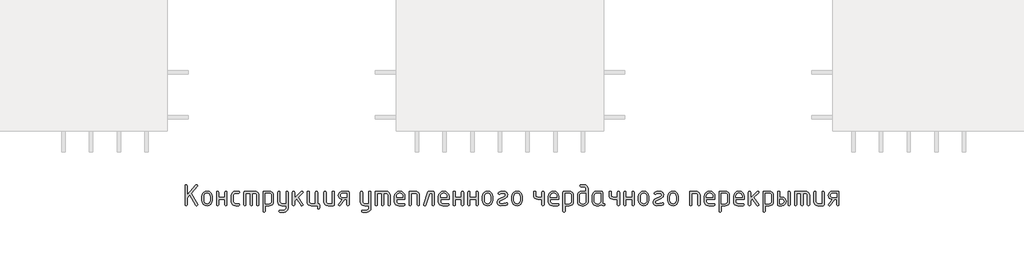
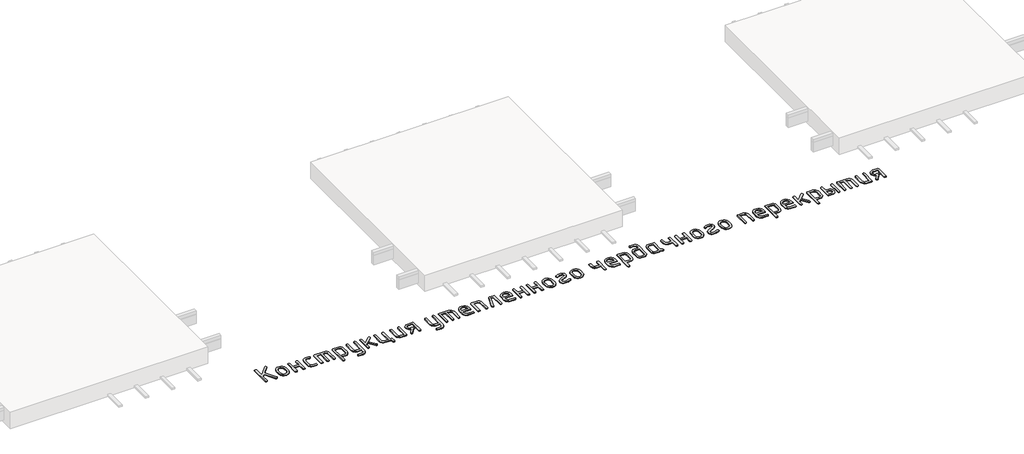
# One storey, part 38 of 42: 1 proxy.
"""IFC4 building model written with IfcOpenShell, lengths in millimetres."""

from ifc_helpers import new_model, si_unit, origin, origin_with_axes, place, context, project, spatial, polyline, outline, extrude, element, save

model = new_model("IFC4")

# Units and contexts
model_context = context("Model", 3, world=origin())
ifc_project = project(units=[si_unit("LENGTHUNIT", "METRE", prefix="MILLI")], contexts=[model_context])

# Site, building, storey
site = spatial("IfcSite", under=ifc_project)
building = spatial("IfcBuilding", under=site)
storey = spatial("IfcBuildingStorey", under=building, Name="Этаж 01", Elevation=0.0)

# Proxy
placement = place(None, origin())
element("IfcBuildingElementProxy", 1, Name="300 мм GOST Common", ObjectType="300 мм GOST Common", at=placement, inside=storey, context=model_context, shape_type="SweptSolid", body=[
    extrude(outline(polyline([(37438.5303163, -44847.9830755), (37399.3090295, -44891.4008785), (37399.3090295, -44992.0365671), (37395.4353221, -45003.4761091), (37383.8142001, -45007.2892897), (37372.1930781, -45003.4761091), (37368.3193708, -44992.0365671), (37368.3193708, -44717.8103685), (37372.1930781, -44706.3708265), (37383.8142001, -44702.5576458), (37395.4353221, -44706.3708265), (37399.3090295, -44717.8103685), (37399.3090295, -44845.8848173), (37524.1553889, -44707.6418867), (37535.6958086, -44702.5576458), (37547.0142973, -44706.3708265), (37550.7871268, -44717.8103685), (37546.6713128, -44728.220957), (37460.1585156, -44824.0145113), (37548.7695709, -44984.4505569), (37550.7871268, -44992.0365671), (37546.1063971, -45002.5682089), (37535.6958086, -45007.2892897), (37527.7062873, -45005.2717338), (37522.137833, -44999.2190661), (37438.5303163, -44847.9830755)])), origin_with_axes(), (0.0, 0.0, 1.0), 10.0),
    extrude(outline(polyline([(37611.0716973, -44931.6712944), (37611.0716973, -44871.1446173), (37616.5493615, -44842.0716367), (37632.9823544, -44817.6390347), (37657.1829375, -44801.0547251), (37685.9633724, -44795.5266219), (37715.0464408, -44800.9941984), (37739.1864972, -44817.396928), (37755.43791, -44841.7690033), (37760.8550476, -44871.1446173), (37760.8550476, -44931.6712944), (37755.3773833, -44960.744275), (37738.9443905, -44985.176877), (37714.7438074, -45001.7611865), (37685.9633724, -45007.2892897), (37657.1829375, -45001.7611865), (37632.9823544, -44985.176877), (37616.5493615, -44960.744275), (37611.0716973, -44931.6712944)]), holes=[polyline([(37729.8653889, -44930.7835698), (37729.8653889, -44870.1761904), (37726.6473873, -44852.7445074), (37716.9933823, -44838.0567004), (37702.7998765, -44828.0697987), (37685.9633724, -44824.7408314), (37669.1268684, -44828.0697987), (37654.9333626, -44838.0567004), (37645.2793576, -44852.7445074), (37642.061356, -44870.1761904), (37642.061356, -44930.7835698), (37645.2490943, -44948.3766573), (37654.8123093, -44963.0644643), (37668.9755517, -44972.9908393), (37685.9633724, -44976.299631), (37702.7998765, -44972.9706638), (37716.9933823, -44962.983762), (37726.6473873, -44948.2757795), (37729.8653889, -44930.7835698)])]), origin_with_axes(), (0.0, 0.0, 1.0), 10.0),
    extrude(outline(polyline([(37853.8240237, -44914.3203136), (37853.8240237, -44991.7944604), (37849.9503164, -45003.4155824), (37838.3291944, -45007.2892897), (37826.7080724, -45003.5164602), (37822.834365, -44992.1979716), (37822.834365, -44810.6179401), (37826.7080724, -44799.2994515), (37838.3291944, -44795.5266219), (37849.9503164, -44799.1783981), (37853.8240237, -44810.1337267), (37853.8240237, -44883.3306549), (37941.6280567, -44883.3306549), (37941.6280567, -44810.1337267), (37945.501764, -44799.1783981), (37957.1228861, -44795.5266219), (37968.7440081, -44799.2994515), (37972.6177154, -44810.6179401), (37972.6177154, -44992.1979716), (37968.7440081, -45003.5164602), (37957.1228861, -45007.2892897), (37945.501764, -45003.4155824), (37941.6280567, -44991.7944604), (37941.6280567, -44914.3203136), (37853.8240237, -44914.3203136)])), origin_with_axes(), (0.0, 0.0, 1.0), 10.0),
    extrude(outline(polyline([(38065.5866915, -44856.4568103), (38065.5866915, -44946.3591014), (38067.8261786, -44957.76838), (38074.5446397, -44967.4627362), (38084.3499614, -44974.0904073), (38095.8500301, -44976.299631), (38141.3660913, -44976.299631), (38152.6845799, -44980.1733384), (38156.4574095, -44991.7944604), (38152.6845799, -45003.4155824), (38141.3660913, -45007.2892897), (38095.8500301, -45007.2892897), (38072.3051527, -45002.9111934), (38052.5129292, -44989.7769045), (38039.0760069, -44970.2671389), (38034.5970328, -44946.7626126), (38034.5970328, -44856.0532991), (38039.0760069, -44832.5487728), (38052.5129292, -44813.0390072), (38072.3051527, -44799.9047183), (38095.8500301, -44795.5266219), (38141.3660913, -44795.5266219), (38152.6845799, -44799.4003293), (38156.4574095, -44811.0214513), (38152.6845799, -44822.6425733), (38141.3660913, -44826.5162806), (38095.8500301, -44826.5162806), (38084.1986447, -44828.7053288), (38074.4235864, -44835.2724733), (38067.7959152, -44844.9466538), (38065.5866915, -44856.4568103)])), origin_with_axes(), (0.0, 0.0, 1.0), 10.0),
    extrude(outline(polyline([(38230.8648712, -44795.5266219), (38370.3183354, -44795.5266219), (38394.2061973, -44799.9349816), (38414.2203519, -44813.1600606), (38427.7783275, -44832.7000895), (38432.2976528, -44856.0532991), (38432.2976528, -44992.1979716), (38428.4239454, -45003.5164602), (38416.8028234, -45007.2892897), (38405.1817014, -45003.5164602), (38401.3079941, -44992.1979716), (38401.3079941, -44856.6182147), (38399.0785948, -44844.8861272), (38392.390397, -44835.191771), (38382.413583, -44828.6851532), (38370.3183354, -44826.5162806), (38339.3286767, -44826.5162806), (38339.3286767, -44992.1979716), (38335.4549693, -45003.5164602), (38323.8338473, -45007.2892897), (38312.2127253, -45003.5164602), (38308.339018, -44992.1979716), (38308.339018, -44826.5162806), (38246.3597006, -44826.5162806), (38246.3597006, -44992.1979716), (38242.4859932, -45003.5164602), (38230.8648712, -45007.2892897), (38219.2437492, -45003.5164602), (38215.3700419, -44992.1979716), (38215.3700419, -44810.6179401), (38219.2437492, -44799.2994515), (38230.8648712, -44795.5266219)])), origin_with_axes(), (0.0, 0.0, 1.0), 10.0),
    extrude(outline(polyline([(38494.2769702, -44810.7793446), (38498.0296242, -44799.3398026), (38509.2875861, -44795.5266219), (38584.1792613, -44795.5266219), (38607.4013298, -44799.9047183), (38626.7093398, -44813.0390072), (38639.7225754, -44832.5487728), (38644.0603206, -44856.0532991), (38644.0603206, -44946.7626126), (38639.7528387, -44970.1158222), (38626.8303931, -44989.6558511), (38607.6736998, -45002.8809301), (38584.6634747, -45007.2892897), (38525.2666289, -45007.2892897), (38525.2666289, -45084.7634365), (38521.3929215, -45096.3845585), (38509.7717995, -45100.2582658), (38498.1506775, -45096.4450852), (38494.2769702, -45085.0055432), (38494.2769702, -44810.7793446)]), holes=[polyline([(38525.2666289, -44826.5162806), (38525.2666289, -44976.299631), (38583.7757501, -44976.299631), (38595.0538876, -44974.1105829), (38604.5162248, -44967.5434384), (38610.9320526, -44957.8692578), (38613.0706619, -44946.3591014), (38613.0706619, -44856.4568103), (38610.9623159, -44844.7953371), (38604.6372782, -44835.1514199), (38595.2052043, -44828.6750655), (38583.7757501, -44826.5162806), (38525.2666289, -44826.5162806)])]), origin_with_axes(), (0.0, 0.0, 1.0), 10.0),
    extrude(outline(polyline([(38824.8333296, -45038.7631618), (38824.8333296, -45007.2892897), (38765.4364838, -45007.2892897), (38742.4262587, -45002.8809301), (38723.2695654, -44989.6558511), (38710.3471198, -44970.1158222), (38706.039638, -44946.7626126), (38706.039638, -44810.6179401), (38709.9133453, -44799.2994515), (38721.5344673, -44795.5266219), (38733.1555893, -44799.2994515), (38737.0292966, -44810.6179401), (38737.0292966, -44946.1976969), (38739.1880815, -44957.6271511), (38745.6644359, -44967.3820339), (38755.1469487, -44974.0702317), (38766.3242084, -44976.299631), (38824.8333296, -44976.299631), (38824.8333296, -44810.6179401), (38828.707037, -44799.2994515), (38840.328159, -44795.5266219), (38851.949281, -44799.3398026), (38855.8229883, -44810.7793446), (38855.8229883, -45039.3280775), (38851.5760331, -45062.7821649), (38838.8351676, -45082.4634227), (38819.9004054, -45095.809555), (38797.0717604, -45100.2582658), (38737.0292966, -45100.2582658), (38725.6502813, -45096.3845585), (38721.8572762, -45084.7634365), (38726.4573037, -45073.9493368), (38737.0292966, -45069.2686071), (38795.5384179, -45069.2686071), (38806.9678721, -45067.0997345), (38816.3999459, -45060.5931167), (38822.7249837, -45050.7978828), (38824.8333296, -45038.7631618)])), origin_with_axes(), (0.0, 0.0, 1.0), 10.0),
    extrude(outline(polyline([(38948.7919644, -44894.9517769), (39044.0206031, -44799.8845427), (39054.8347028, -44795.5266219), (39066.2137181, -44799.2994515), (39070.0067232, -44810.6179401), (39065.4066957, -44821.1899331), (38998.8273509, -44887.6885757), (39067.0207405, -44983.48213), (39070.0067232, -44992.359376), (39066.2137181, -45003.5568113), (39054.8347028, -45007.2892897), (39047.6925549, -45005.675245), (39042.2451539, -45000.8331108), (38977.0377471, -44909.2360727), (38948.7919644, -44937.4818554), (38948.7919644, -44992.1172693), (38944.9182571, -45003.4962846), (38933.2971351, -45007.2892897), (38921.6760131, -45003.5164602), (38917.8023057, -44992.1979716), (38917.8023057, -44810.6179401), (38921.6760131, -44799.2994515), (38933.2971351, -44795.5266219), (38944.9182571, -44799.2994515), (38948.7919644, -44810.6179401), (38948.7919644, -44894.9517769)])), origin_with_axes(), (0.0, 0.0, 1.0), 10.0),
    extrude(outline(polyline([(39294.8431532, -44976.299631), (39306.4642752, -44980.1733384), (39310.3379826, -44991.7944604), (39310.3379826, -45038.2789484), (39306.4642752, -45049.9000704), (39294.8431532, -45053.7737778), (39283.2220312, -45049.9000704), (39279.3483239, -45038.2789484), (39279.3483239, -45007.2892897), (39189.4460328, -45007.2892897), (39166.2239643, -45002.8809301), (39146.9159543, -44989.6558511), (39133.9027187, -44970.1158222), (39129.5649735, -44946.7626126), (39129.5649735, -44810.6179401), (39133.4386808, -44799.2994515), (39145.0598029, -44795.5266219), (39156.6809249, -44799.2994515), (39160.5546322, -44810.6179401), (39160.5546322, -44946.1976969), (39162.713417, -44957.6271511), (39169.1897715, -44967.3820339), (39178.6722842, -44974.0702317), (39189.8495439, -44976.299631), (39248.3586652, -44976.299631), (39248.3586652, -44810.6179401), (39252.2323725, -44799.2994515), (39263.8534945, -44795.5266219), (39275.4746165, -44799.2994515), (39279.3483239, -44810.6179401), (39279.3483239, -44976.299631), (39294.8431532, -44976.299631)])), origin_with_axes(), (0.0, 0.0, 1.0), 10.0),
    extrude(outline(polyline([(39522.1006504, -44810.6179401), (39522.1006504, -44992.1979716), (39518.3479964, -45003.5164602), (39507.0900344, -45007.2892897), (39432.1983592, -45007.2892897), (39408.9762908, -45002.9111934), (39389.6682808, -44989.7769045), (39376.6550452, -44970.2671389), (39372.3173, -44946.7626126), (39372.3173, -44810.6179401), (39376.1910073, -44799.2994515), (39387.8121293, -44795.5266219), (39399.4332513, -44799.2994515), (39403.3069587, -44810.6179401), (39403.3069587, -44946.1976969), (39405.4657435, -44957.6271511), (39411.942098, -44967.3820339), (39421.4246107, -44974.0702317), (39432.6018704, -44976.299631), (39491.1109917, -44976.299631), (39491.1109917, -44810.6179401), (39494.984699, -44799.2994515), (39506.605821, -44795.5266219), (39518.226943, -44799.2994515), (39522.1006504, -44810.6179401)])), origin_with_axes(), (0.0, 0.0, 1.0), 10.0),
    extrude(outline(polyline([(39635.6486967, -44916.0957628), (39614.2726919, -44909.7909006), (39596.9519744, -44896.3640661), (39585.4821691, -44877.792464), (39581.6589007, -44856.0532991), (39586.0571725, -44832.5487728), (39599.2519882, -44813.0390072), (39618.8021049, -44799.9047183), (39642.2662801, -44795.5266219), (39718.3684888, -44795.5266219), (39729.9896108, -44799.2994515), (39733.8633181, -44810.6179401), (39733.8633181, -44992.1979716), (39729.9896108, -45003.5164602), (39718.3684888, -45007.2892897), (39706.7473668, -45003.4962846), (39702.8736594, -44992.1172693), (39702.8736594, -44916.4185718), (39672.1261074, -44916.4185718), (39609.0169587, -45001.0752175), (39603.6704356, -45005.7357717), (39596.8309211, -45007.2892897), (39585.4519058, -45003.5164602), (39581.6589007, -44992.1979716), (39584.6448834, -44982.9979166), (39635.6486967, -44916.0957628)]), holes=[polyline([(39612.0029415, -44856.8603215), (39614.2424285, -44868.3603901), (39620.9608897, -44878.1657118), (39630.7662114, -44884.884173), (39642.2662801, -44887.12366), (39702.8736594, -44887.12366), (39702.8736594, -44826.5162806), (39642.2662801, -44826.5162806), (39630.6148947, -44828.7255044), (39620.8398363, -44835.3531755), (39614.2121652, -44845.1484094), (39612.0029415, -44856.8603215)])]), origin_with_axes(), (0.0, 0.0, 1.0), 10.0),
    extrude(outline(polyline([(40017.9351895, -45038.7631618), (40017.9351895, -45007.2892897), (39958.5383437, -45007.2892897), (39935.5281186, -45002.8809301), (39916.3714253, -44989.6558511), (39903.4489797, -44970.1158222), (39899.1414979, -44946.7626126), (39899.1414979, -44810.6179401), (39903.0152052, -44799.2994515), (39914.6363272, -44795.5266219), (39926.2574492, -44799.2994515), (39930.1311566, -44810.6179401), (39930.1311566, -44946.1976969), (39932.2899414, -44957.6271511), (39938.7662958, -44967.3820339), (39948.2488086, -44974.0702317), (39959.4260683, -44976.299631), (40017.9351895, -44976.299631), (40017.9351895, -44810.6179401), (40021.8088969, -44799.2994515), (40033.4300189, -44795.5266219), (40045.0511409, -44799.3398026), (40048.9248482, -44810.7793446), (40048.9248482, -45039.3280775), (40044.6778931, -45062.7821649), (40031.9370275, -45082.4634227), (40013.0022654, -45095.809555), (39990.1736203, -45100.2582658), (39930.1311566, -45100.2582658), (39918.7521413, -45096.3845585), (39914.9591362, -45084.7634365), (39919.5591636, -45073.9493368), (39930.1311566, -45069.2686071), (39988.6402778, -45069.2686071), (40000.069732, -45067.0997345), (40009.5018059, -45060.5931167), (40015.8268436, -45050.7978828), (40017.9351895, -45038.7631618)])), origin_with_axes(), (0.0, 0.0, 1.0), 10.0),
    extrude(outline(polyline([(40126.398995, -44795.5266219), (40265.8524591, -44795.5266219), (40289.740321, -44799.9349816), (40309.7544756, -44813.1600606), (40323.3124513, -44832.7000895), (40327.8317765, -44856.0532991), (40327.8317765, -44992.1979716), (40323.9580692, -45003.5164602), (40312.3369472, -45007.2892897), (40300.7158252, -45003.5164602), (40296.8421178, -44992.1979716), (40296.8421178, -44856.6182147), (40294.6127186, -44844.8861272), (40287.9245207, -44835.191771), (40277.9477068, -44828.6851532), (40265.8524591, -44826.5162806), (40234.8628004, -44826.5162806), (40234.8628004, -44992.1979716), (40230.9890931, -45003.5164602), (40219.3679711, -45007.2892897), (40207.7468491, -45003.5164602), (40203.8731417, -44992.1979716), (40203.8731417, -44826.5162806), (40141.8938243, -44826.5162806), (40141.8938243, -44992.1979716), (40138.020117, -45003.5164602), (40126.398995, -45007.2892897), (40114.777873, -45003.5164602), (40110.9041656, -44992.1979716), (40110.9041656, -44810.6179401), (40114.777873, -44799.2994515), (40126.398995, -44795.5266219)])), origin_with_axes(), (0.0, 0.0, 1.0), 10.0),
    extrude(outline(polyline([(40420.8007526, -44914.3203136), (40420.8007526, -44945.3099723), (40423.0402397, -44957.1025866), (40429.7587008, -44967.1399272), (40439.5640225, -44974.0097051), (40451.0640912, -44976.299631), (40526.843491, -44976.299631), (40538.2225063, -44980.1733384), (40542.0155114, -44991.7944604), (40538.2225063, -45003.4155824), (40526.843491, -45007.2892897), (40451.0640912, -45007.2892897), (40427.5192138, -45002.9111934), (40407.7269904, -44989.7769045), (40394.290068, -44970.2671389), (40389.8110939, -44946.7626126), (40389.8110939, -44871.1446173), (40395.4299871, -44842.0716367), (40412.2866667, -44817.6390347), (40437.0118143, -44801.0547251), (40466.2361116, -44795.5266219), (40495.68234, -44800.8933207), (40520.1048543, -44816.9934168), (40536.5378471, -44840.9216298), (40542.0155114, -44869.7726792), (40542.0155114, -44914.3203136), (40420.8007526, -44914.3203136)]), holes=[polyline([(40466.2361116, -44822.7232755), (40448.8044286, -44826.0522428), (40434.1166216, -44836.0391445), (40424.1297199, -44850.7269515), (40420.8007526, -44868.1586345), (40420.8007526, -44883.3306549), (40511.6714706, -44883.3306549), (40511.6714706, -44868.1586345), (40508.3425033, -44850.7269515), (40498.3556016, -44836.0391445), (40483.6677946, -44826.0522428), (40466.2361116, -44822.7232755)])]), origin_with_axes(), (0.0, 0.0, 1.0), 10.0),
    extrude(outline(polyline([(40601.5737617, -44992.1979716), (40601.5737617, -44810.6179401), (40605.3264157, -44799.2994515), (40616.5843776, -44795.5266219), (40691.4760528, -44795.5266219), (40714.5468046, -44799.9349816), (40733.8850779, -44813.1600606), (40746.9891036, -44832.7000895), (40751.3571121, -44856.0532991), (40751.3571121, -44992.1979716), (40747.4834047, -45003.5164602), (40735.8622827, -45007.2892897), (40724.2411607, -45003.5164602), (40720.3674534, -44992.1979716), (40720.3674534, -44856.6182147), (40718.2591075, -44844.8861272), (40711.9340697, -44835.191771), (40702.5019958, -44828.6851532), (40691.0725416, -44826.5162806), (40632.5634204, -44826.5162806), (40632.5634204, -44992.1979716), (40628.6897131, -45003.5164602), (40617.0685911, -45007.2892897), (40605.447469, -45003.5164602), (40601.5737617, -44992.1979716)])), origin_with_axes(), (0.0, 0.0, 1.0), 10.0),
    extrude(outline(polyline([(40886.6947622, -44795.5266219), (40947.6249505, -44795.5266219), (40959.2460725, -44799.2994515), (40963.1197799, -44810.6179401), (40963.1197799, -44992.1979716), (40959.2460725, -45003.5164602), (40947.6249505, -45007.2892897), (40936.0038285, -45003.5164602), (40932.1301212, -44992.1979716), (40932.1301212, -44826.5162806), (40897.5088618, -44826.5162806), (40840.3716786, -44997.0401057), (40835.0655066, -45004.7269937), (40826.0873828, -45007.2892897), (40814.7083675, -45003.4559335), (40810.9153624, -44991.9558648), (40811.6416825, -44987.3558374), (40871.5227418, -44807.8740641), (40877.414005, -44798.6134825), (40886.6947622, -44795.5266219)])), origin_with_axes(), (0.0, 0.0, 1.0), 10.0),
    extrude(outline(polyline([(41056.088756, -44914.3203136), (41056.088756, -44945.3099723), (41058.328243, -44957.1025866), (41065.0467042, -44967.1399272), (41074.8520259, -44974.0097051), (41086.3520945, -44976.299631), (41162.1314943, -44976.299631), (41173.5105096, -44980.1733384), (41177.3035147, -44991.7944604), (41173.5105096, -45003.4155824), (41162.1314943, -45007.2892897), (41086.3520945, -45007.2892897), (41062.8072171, -45002.9111934), (41043.0149937, -44989.7769045), (41029.5780714, -44970.2671389), (41025.0990973, -44946.7626126), (41025.0990973, -44871.1446173), (41030.7179905, -44842.0716367), (41047.57467, -44817.6390347), (41072.2998177, -44801.0547251), (41101.5241149, -44795.5266219), (41130.9703434, -44800.8933207), (41155.3928576, -44816.9934168), (41171.8258504, -44840.9216298), (41177.3035147, -44869.7726792), (41177.3035147, -44914.3203136), (41056.088756, -44914.3203136)]), holes=[polyline([(41101.5241149, -44822.7232755), (41084.0924319, -44826.0522428), (41069.4046249, -44836.0391445), (41059.4177232, -44850.7269515), (41056.088756, -44868.1586345), (41056.088756, -44883.3306549), (41146.9594739, -44883.3306549), (41146.9594739, -44868.1586345), (41143.6305067, -44850.7269515), (41133.6436049, -44836.0391445), (41118.955798, -44826.0522428), (41101.5241149, -44822.7232755)])]), origin_with_axes(), (0.0, 0.0, 1.0), 10.0),
    extrude(outline(polyline([(41267.8514237, -44914.3203136), (41267.8514237, -44991.7944604), (41263.9777164, -45003.4155824), (41252.3565944, -45007.2892897), (41240.7354724, -45003.5164602), (41236.861765, -44992.1979716), (41236.861765, -44810.6179401), (41240.7354724, -44799.2994515), (41252.3565944, -44795.5266219), (41263.9777164, -44799.1783981), (41267.8514237, -44810.1337267), (41267.8514237, -44883.3306549), (41355.6554567, -44883.3306549), (41355.6554567, -44810.1337267), (41359.5291641, -44799.1783981), (41371.1502861, -44795.5266219), (41382.7714081, -44799.2994515), (41386.6451154, -44810.6179401), (41386.6451154, -44992.1979716), (41382.7714081, -45003.5164602), (41371.1502861, -45007.2892897), (41359.5291641, -45003.4155824), (41355.6554567, -44991.7944604), (41355.6554567, -44914.3203136), (41267.8514237, -44914.3203136)])), origin_with_axes(), (0.0, 0.0, 1.0), 10.0),
    extrude(outline(polyline([(41479.6140915, -44914.3203136), (41479.6140915, -44991.7944604), (41475.7403842, -45003.4155824), (41464.1192622, -45007.2892897), (41452.4981401, -45003.5164602), (41448.6244328, -44992.1979716), (41448.6244328, -44810.6179401), (41452.4981401, -44799.2994515), (41464.1192622, -44795.5266219), (41475.7403842, -44799.1783981), (41479.6140915, -44810.1337267), (41479.6140915, -44883.3306549), (41567.4181245, -44883.3306549), (41567.4181245, -44810.1337267), (41571.2918318, -44799.1783981), (41582.9129538, -44795.5266219), (41594.5340759, -44799.2994515), (41598.4077832, -44810.6179401), (41598.4077832, -44992.1979716), (41594.5340759, -45003.5164602), (41582.9129538, -45007.2892897), (41571.2918318, -45003.4155824), (41567.4181245, -44991.7944604), (41567.4181245, -44914.3203136), (41479.6140915, -44914.3203136)])), origin_with_axes(), (0.0, 0.0, 1.0), 10.0),
    extrude(outline(polyline([(41660.3871006, -44931.6712944), (41660.3871006, -44871.1446173), (41665.8647649, -44842.0716367), (41682.2977577, -44817.6390347), (41706.4983408, -44801.0547251), (41735.2787758, -44795.5266219), (41764.3618441, -44800.9941984), (41788.5019005, -44817.396928), (41804.7533134, -44841.7690033), (41810.170451, -44871.1446173), (41810.170451, -44931.6712944), (41804.6927867, -44960.744275), (41788.2597938, -44985.176877), (41764.0592108, -45001.7611865), (41735.2787758, -45007.2892897), (41706.4983408, -45001.7611865), (41682.2977577, -44985.176877), (41665.8647649, -44960.744275), (41660.3871006, -44931.6712944)]), holes=[polyline([(41779.1807923, -44930.7835698), (41779.1807923, -44870.1761904), (41775.9627906, -44852.7445074), (41766.3087856, -44838.0567004), (41752.1152798, -44828.0697987), (41735.2787758, -44824.7408314), (41718.4422718, -44828.0697987), (41704.248766, -44838.0567004), (41694.594761, -44852.7445074), (41691.3767593, -44870.1761904), (41691.3767593, -44930.7835698), (41694.5644976, -44948.3766573), (41704.1277126, -44963.0644643), (41718.2909551, -44972.9908393), (41735.2787758, -44976.299631), (41752.1152798, -44972.9706638), (41766.3087856, -44962.983762), (41775.9627906, -44948.2757795), (41779.1807923, -44930.7835698)])]), origin_with_axes(), (0.0, 0.0, 1.0), 10.0),
    extrude(outline(polyline([(42007.8102274, -44961.1276106), (42019.1892427, -44964.9206157), (42022.9822478, -44976.299631), (42020.8638141, -44984.2488013), (42014.508513, -44990.1804156), (41997.9292474, -44997.6655481), (41977.4056599, -45003.0120712), (41924.5255197, -45007.2892897), (41904.0675028, -45003.4357579), (41886.9182776, -44991.8751626), (41875.2971556, -44974.8469908), (41871.4234482, -44954.5907295), (41873.3199508, -44939.2018218), (41879.0094584, -44926.1230157), (41888.4919712, -44915.354311), (41901.767489, -44906.8957079), (41980.2907649, -44869.2077636), (41989.5513465, -44861.1980666), (41992.638207, -44849.1129068), (41990.9737234, -44840.4374164), (41985.9802725, -44833.133864), (41978.6464568, -44828.1706765), (41969.9608786, -44826.5162806), (41931.6273164, -44829.7443701), (41908.8692858, -44839.8321496), (41901.767489, -44841.688301), (41891.1954961, -44837.0882736), (41886.5954686, -44826.5162806), (41888.6130245, -44818.8697438), (41894.6656923, -44812.8776027), (41926.8053578, -44799.8643671), (41969.9608786, -44795.5266219), (41990.3583688, -44799.3801537), (42007.4874185, -44810.9407491), (42019.1085405, -44827.9689209), (42022.9822478, -44848.2251822), (42021.0706136, -44863.6140898), (42015.3357109, -44876.692896), (42005.7775398, -44887.4616006), (41992.3961003, -44895.9202038), (41914.5991446, -44933.1239347), (41904.9754029, -44941.3757383), (41901.767489, -44953.7030049), (41903.4319727, -44962.3784953), (41908.4254235, -44969.6820477), (41915.7794148, -44974.6452352), (41924.5255197, -44976.299631), (41966.0669957, -44972.7890837), (42002.0803686, -44962.2574419), (42007.8102274, -44961.1276106)])), origin_with_axes(), (0.0, 0.0, 1.0), 10.0),
    extrude(outline(polyline([(42083.9124361, -44931.6712944), (42083.9124361, -44871.1446173), (42089.3901004, -44842.0716367), (42105.8230933, -44817.6390347), (42130.0236763, -44801.0547251), (42158.8041113, -44795.5266219), (42187.8871797, -44800.9941984), (42212.0272361, -44817.396928), (42228.2786489, -44841.7690033), (42233.6957865, -44871.1446173), (42233.6957865, -44931.6712944), (42228.2181222, -44960.744275), (42211.7851294, -44985.176877), (42187.5845463, -45001.7611865), (42158.8041113, -45007.2892897), (42130.0236763, -45001.7611865), (42105.8230933, -44985.176877), (42089.3901004, -44960.744275), (42083.9124361, -44931.6712944)]), holes=[polyline([(42202.7061278, -44930.7835698), (42202.7061278, -44870.1761904), (42199.4881262, -44852.7445074), (42189.8341211, -44838.0567004), (42175.6406154, -44828.0697987), (42158.8041113, -44824.7408314), (42141.9676073, -44828.0697987), (42127.7741015, -44838.0567004), (42118.1200965, -44852.7445074), (42114.9020948, -44870.1761904), (42114.9020948, -44930.7835698), (42118.0898332, -44948.3766573), (42127.6530482, -44963.0644643), (42141.8162906, -44972.9908393), (42158.8041113, -44976.299631), (42175.6406154, -44972.9706638), (42189.8341211, -44962.983762), (42199.4881262, -44948.2757795), (42202.7061278, -44930.7835698)])]), origin_with_axes(), (0.0, 0.0, 1.0), 10.0),
    extrude(outline(polyline([(42548.7573166, -44810.6179401), (42548.7573166, -44992.1979716), (42544.8836093, -45003.5164602), (42533.2624873, -45007.2892897), (42521.6413653, -45003.4155824), (42517.7676579, -44991.7944604), (42517.7676579, -44914.3203136), (42458.3708121, -44914.3203136), (42435.6127815, -44910.0430951), (42416.4056493, -44897.2114395), (42403.331887, -44878.3674674), (42398.9739662, -44856.0532991), (42398.9739662, -44810.3758334), (42402.8476736, -44799.2389248), (42414.4687956, -44795.5266219), (42426.0899176, -44799.1783981), (42429.9636249, -44810.1337267), (42429.9636249, -44854.0357432), (42432.1224098, -44865.2130029), (42438.5987642, -44874.6955157), (42448.081277, -44881.1718701), (42459.2585367, -44883.3306549), (42517.7676579, -44883.3306549), (42517.7676579, -44810.1337267), (42521.6413653, -44799.1783981), (42533.2624873, -44795.5266219), (42544.8836093, -44799.2994515), (42548.7573166, -44810.6179401)])), origin_with_axes(), (0.0, 0.0, 1.0), 10.0),
    extrude(outline(polyline([(42641.7262927, -44914.3203136), (42641.7262927, -44945.3099723), (42643.9657798, -44957.1025866), (42650.6842409, -44967.1399272), (42660.4895626, -44974.0097051), (42671.9896313, -44976.299631), (42747.7690311, -44976.299631), (42759.1480464, -44980.1733384), (42762.9410515, -44991.7944604), (42759.1480464, -45003.4155824), (42747.7690311, -45007.2892897), (42671.9896313, -45007.2892897), (42648.4447539, -45002.9111934), (42628.6525305, -44989.7769045), (42615.2156081, -44970.2671389), (42610.736634, -44946.7626126), (42610.736634, -44871.1446173), (42616.3555272, -44842.0716367), (42633.2122068, -44817.6390347), (42657.9373544, -44801.0547251), (42687.1616517, -44795.5266219), (42716.6078801, -44800.8933207), (42741.0303944, -44816.9934168), (42757.4633872, -44840.9216298), (42762.9410515, -44869.7726792), (42762.9410515, -44914.3203136), (42641.7262927, -44914.3203136)]), holes=[polyline([(42687.1616517, -44822.7232755), (42669.7299687, -44826.0522428), (42655.0421617, -44836.0391445), (42645.05526, -44850.7269515), (42641.7262927, -44868.1586345), (42641.7262927, -44883.3306549), (42732.5970107, -44883.3306549), (42732.5970107, -44868.1586345), (42729.2680434, -44850.7269515), (42719.2811417, -44836.0391445), (42704.5933347, -44826.0522428), (42687.1616517, -44822.7232755)])]), origin_with_axes(), (0.0, 0.0, 1.0), 10.0),
    extrude(outline(polyline([(42822.4993018, -44810.7793446), (42826.2519558, -44799.3398026), (42837.5099177, -44795.5266219), (42912.4015929, -44795.5266219), (42935.6236614, -44799.9047183), (42954.9316714, -44813.0390072), (42967.944907, -44832.5487728), (42972.2826522, -44856.0532991), (42972.2826522, -44946.7626126), (42967.9751703, -44970.1158222), (42955.0527248, -44989.6558511), (42935.8960314, -45002.8809301), (42912.8858063, -45007.2892897), (42853.4889605, -45007.2892897), (42853.4889605, -45084.7634365), (42849.6152532, -45096.3845585), (42837.9941312, -45100.2582658), (42826.3730091, -45096.4450852), (42822.4993018, -45085.0055432), (42822.4993018, -44810.7793446)]), holes=[polyline([(42853.4889605, -44826.5162806), (42853.4889605, -44976.299631), (42911.9980817, -44976.299631), (42923.2762192, -44974.1105829), (42932.7385564, -44967.5434384), (42939.1543842, -44957.8692578), (42941.2929935, -44946.3591014), (42941.2929935, -44856.4568103), (42939.1846476, -44844.7953371), (42932.8596098, -44835.1514199), (42923.4275359, -44828.6750655), (42911.9980817, -44826.5162806), (42853.4889605, -44826.5162806)])]), origin_with_axes(), (0.0, 0.0, 1.0), 10.0),
    extrude(outline(polyline([(43184.04532, -44763.4878342), (43184.04532, -44946.3591014), (43179.6773114, -44969.9645055), (43166.5732858, -44989.6155), (43147.2350125, -45002.8708423), (43124.1642607, -45007.2892897), (43094.1430288, -45007.2892897), (43070.9209604, -45002.8809301), (43051.6129504, -44989.6558511), (43038.5997148, -44970.1158222), (43034.2619696, -44946.7626126), (43034.2619696, -44856.0532991), (43038.589627, -44832.5487728), (43051.5725992, -44813.0390072), (43070.7494681, -44799.9047183), (43093.6588154, -44795.5266219), (43153.0556613, -44795.5266219), (43153.0556613, -44764.5369632), (43150.9473153, -44752.4417156), (43144.6222776, -44742.4649016), (43135.1902037, -44735.7767038), (43123.7607495, -44733.5473045), (43079.858733, -44733.5473045), (43068.9034045, -44729.6735972), (43065.2516283, -44718.0524752), (43068.9639311, -44706.4313532), (43080.1008397, -44702.5576458), (43124.6484741, -44702.5576458), (43147.6586992, -44707.0063566), (43166.8153925, -44720.3524889), (43179.7378381, -44740.0337468), (43184.04532, -44763.4878342)]), holes=[polyline([(43153.0556613, -44946.3591014), (43153.0556613, -44826.5162806), (43094.54654, -44826.5162806), (43083.2684025, -44828.7053288), (43073.8060653, -44835.2724733), (43067.3902375, -44844.9466538), (43065.2516283, -44856.4568103), (43065.2516283, -44946.3591014), (43067.4104131, -44957.76838), (43073.8867675, -44967.4627362), (43083.3692803, -44974.0904073), (43094.54654, -44976.299631), (43123.7607495, -44976.299631), (43135.038887, -44974.1105829), (43144.5012242, -44967.5434384), (43150.917052, -44957.8692578), (43153.0556613, -44946.3591014)])]), origin_with_axes(), (0.0, 0.0, 1.0), 10.0),
    extrude(outline(polyline([(43426.0713263, -44992.1979716), (43422.2984968, -45003.5164602), (43410.9800081, -45007.2892897), (43391.8334026, -45003.2743535), (43376.5201533, -44991.2295447), (43358.0998679, -45003.2743535), (43335.9269285, -45007.2892897), (43305.9056966, -45007.2892897), (43282.6836281, -45002.9111934), (43263.3756181, -44989.7769045), (43250.3623825, -44970.2671389), (43246.0246374, -44946.7626126), (43246.0246374, -44856.0532991), (43250.3623825, -44832.5487728), (43263.3756181, -44813.0390072), (43282.6836281, -44799.9047183), (43305.9056966, -44795.5266219), (43380.7973718, -44795.5266219), (43392.0553337, -44799.2994515), (43395.8079877, -44810.6179401), (43395.8079877, -44961.934633), (43399.5909051, -44973.2531216), (43410.939657, -44977.0259511), (43422.288409, -44980.8189562), (43426.0713263, -44992.1979716)]), holes=[polyline([(43364.818329, -44826.5162806), (43306.3092078, -44826.5162806), (43295.0310703, -44828.7053288), (43285.5687331, -44835.2724733), (43279.1529053, -44844.9466538), (43277.0142961, -44856.4568103), (43277.0142961, -44946.3591014), (43279.1730809, -44957.76838), (43285.6494353, -44967.4627362), (43295.1319481, -44974.0904073), (43306.3092078, -44976.299631), (43335.5234173, -44976.299631), (43346.8015548, -44974.1105829), (43356.263892, -44967.5434384), (43362.6797198, -44957.8692578), (43364.818329, -44946.3591014), (43364.818329, -44826.5162806)])]), origin_with_axes(), (0.0, 0.0, 1.0), 10.0),
    extrude(outline(polyline([(43638.5603142, -44810.6179401), (43638.5603142, -44992.1979716), (43634.6866069, -45003.5164602), (43623.0654849, -45007.2892897), (43611.4443628, -45003.4155824), (43607.5706555, -44991.7944604), (43607.5706555, -44914.3203136), (43548.1738097, -44914.3203136), (43525.4157791, -44910.0430951), (43506.2086468, -44897.2114395), (43493.1348846, -44878.3674674), (43488.7769638, -44856.0532991), (43488.7769638, -44810.3758334), (43492.6506712, -44799.2389248), (43504.2717932, -44795.5266219), (43515.8929152, -44799.1783981), (43519.7666225, -44810.1337267), (43519.7666225, -44854.0357432), (43521.9254073, -44865.2130029), (43528.4017618, -44874.6955157), (43537.8842746, -44881.1718701), (43549.0615343, -44883.3306549), (43607.5706555, -44883.3306549), (43607.5706555, -44810.1337267), (43611.4443628, -44799.1783981), (43623.0654849, -44795.5266219), (43634.6866069, -44799.2994515), (43638.5603142, -44810.6179401)])), origin_with_axes(), (0.0, 0.0, 1.0), 10.0),
    extrude(outline(polyline([(43731.5292903, -44914.3203136), (43731.5292903, -44991.7944604), (43727.655583, -45003.4155824), (43716.034461, -45007.2892897), (43704.4133389, -45003.5164602), (43700.5396316, -44992.1979716), (43700.5396316, -44810.6179401), (43704.4133389, -44799.2994515), (43716.034461, -44795.5266219), (43727.655583, -44799.1783981), (43731.5292903, -44810.1337267), (43731.5292903, -44883.3306549), (43819.3333233, -44883.3306549), (43819.3333233, -44810.1337267), (43823.2070306, -44799.1783981), (43834.8281526, -44795.5266219), (43846.4492746, -44799.2994515), (43850.322982, -44810.6179401), (43850.322982, -44992.1979716), (43846.4492746, -45003.5164602), (43834.8281526, -45007.2892897), (43823.2070306, -45003.4155824), (43819.3333233, -44991.7944604), (43819.3333233, -44914.3203136), (43731.5292903, -44914.3203136)])), origin_with_axes(), (0.0, 0.0, 1.0), 10.0),
    extrude(outline(polyline([(43912.3022994, -44931.6712944), (43912.3022994, -44871.1446173), (43917.7799637, -44842.0716367), (43934.2129565, -44817.6390347), (43958.4135396, -44801.0547251), (43987.1939746, -44795.5266219), (44016.2770429, -44800.9941984), (44040.4170993, -44817.396928), (44056.6685122, -44841.7690033), (44062.0856498, -44871.1446173), (44062.0856498, -44931.6712944), (44056.6079855, -44960.744275), (44040.1749926, -44985.176877), (44015.9744096, -45001.7611865), (43987.1939746, -45007.2892897), (43958.4135396, -45001.7611865), (43934.2129565, -44985.176877), (43917.7799637, -44960.744275), (43912.3022994, -44931.6712944)]), holes=[polyline([(44031.0959911, -44930.7835698), (44031.0959911, -44870.1761904), (44027.8779894, -44852.7445074), (44018.2239844, -44838.0567004), (44004.0304786, -44828.0697987), (43987.1939746, -44824.7408314), (43970.3574705, -44828.0697987), (43956.1639648, -44838.0567004), (43946.5099597, -44852.7445074), (43943.2919581, -44870.1761904), (43943.2919581, -44930.7835698), (43946.4796964, -44948.3766573), (43956.0429114, -44963.0644643), (43970.2061539, -44972.9908393), (43987.1939746, -44976.299631), (44004.0304786, -44972.9706638), (44018.2239844, -44962.983762), (44027.8779894, -44948.2757795), (44031.0959911, -44930.7835698)])]), origin_with_axes(), (0.0, 0.0, 1.0), 10.0),
    extrude(outline(polyline([(44259.7254262, -44961.1276106), (44271.1044415, -44964.9206157), (44274.8974466, -44976.299631), (44272.7790129, -44984.2488013), (44266.4237118, -44990.1804156), (44249.8444462, -44997.6655481), (44229.3208587, -45003.0120712), (44176.4407184, -45007.2892897), (44155.9827016, -45003.4357579), (44138.8334764, -44991.8751626), (44127.2123544, -44974.8469908), (44123.338647, -44954.5907295), (44125.2351496, -44939.2018218), (44130.9246572, -44926.1230157), (44140.40717, -44915.354311), (44153.6826878, -44906.8957079), (44232.2059637, -44869.2077636), (44241.4665453, -44861.1980666), (44244.5534058, -44849.1129068), (44242.8889222, -44840.4374164), (44237.8954713, -44833.133864), (44230.5616556, -44828.1706765), (44221.8760774, -44826.5162806), (44183.5425152, -44829.7443701), (44160.7844846, -44839.8321496), (44153.6826878, -44841.688301), (44143.1106949, -44837.0882736), (44138.5106674, -44826.5162806), (44140.5282233, -44818.8697438), (44146.5808911, -44812.8776027), (44178.7205566, -44799.8643671), (44221.8760774, -44795.5266219), (44242.2735676, -44799.3801537), (44259.4026173, -44810.9407491), (44271.0237393, -44827.9689209), (44274.8974466, -44848.2251822), (44272.9858124, -44863.6140898), (44267.2509097, -44876.692896), (44257.6927386, -44887.4616006), (44244.3112991, -44895.9202038), (44166.5143434, -44933.1239347), (44156.8906017, -44941.3757383), (44153.6826878, -44953.7030049), (44155.3471715, -44962.3784953), (44160.3406223, -44969.6820477), (44167.6946136, -44974.6452352), (44176.4407184, -44976.299631), (44217.9821945, -44972.7890837), (44253.9955674, -44962.2574419), (44259.7254262, -44961.1276106)])), origin_with_axes(), (0.0, 0.0, 1.0), 10.0),
    extrude(outline(polyline([(44335.8276349, -44931.6712944), (44335.8276349, -44871.1446173), (44341.3052992, -44842.0716367), (44357.7382921, -44817.6390347), (44381.9388751, -44801.0547251), (44410.7193101, -44795.5266219), (44439.8023785, -44800.9941984), (44463.9424349, -44817.396928), (44480.1938477, -44841.7690033), (44485.6109853, -44871.1446173), (44485.6109853, -44931.6712944), (44480.133321, -44960.744275), (44463.7003282, -44985.176877), (44439.4997451, -45001.7611865), (44410.7193101, -45007.2892897), (44381.9388751, -45001.7611865), (44357.7382921, -44985.176877), (44341.3052992, -44960.744275), (44335.8276349, -44931.6712944)]), holes=[polyline([(44454.6213266, -44930.7835698), (44454.6213266, -44870.1761904), (44451.4033249, -44852.7445074), (44441.7493199, -44838.0567004), (44427.5558142, -44828.0697987), (44410.7193101, -44824.7408314), (44393.8828061, -44828.0697987), (44379.6893003, -44838.0567004), (44370.0352953, -44852.7445074), (44366.8172936, -44870.1761904), (44366.8172936, -44930.7835698), (44370.005032, -44948.3766573), (44379.568247, -44963.0644643), (44393.7314894, -44972.9908393), (44410.7193101, -44976.299631), (44427.5558142, -44972.9706638), (44441.7493199, -44962.983762), (44451.4033249, -44948.2757795), (44454.6213266, -44930.7835698)])]), origin_with_axes(), (0.0, 0.0, 1.0), 10.0),
    extrude(outline(polyline([(44650.889165, -44992.1979716), (44650.889165, -44810.6179401), (44654.641819, -44799.2994515), (44665.899781, -44795.5266219), (44740.7914562, -44795.5266219), (44763.8622079, -44799.9349816), (44783.2004813, -44813.1600606), (44796.3045069, -44832.7000895), (44800.6725154, -44856.0532991), (44800.6725154, -44992.1979716), (44796.7988081, -45003.5164602), (44785.1776861, -45007.2892897), (44773.5565641, -45003.5164602), (44769.6828567, -44992.1979716), (44769.6828567, -44856.6182147), (44767.5745108, -44844.8861272), (44761.249473, -44835.191771), (44751.8173992, -44828.6851532), (44740.387945, -44826.5162806), (44681.8788237, -44826.5162806), (44681.8788237, -44992.1979716), (44678.0051164, -45003.5164602), (44666.3839944, -45007.2892897), (44654.7628724, -45003.5164602), (44650.889165, -44992.1979716)])), origin_with_axes(), (0.0, 0.0, 1.0), 10.0),
    extrude(outline(polyline([(44893.6414915, -44914.3203136), (44893.6414915, -44945.3099723), (44895.8809786, -44957.1025866), (44902.5994397, -44967.1399272), (44912.4047614, -44974.0097051), (44923.9048301, -44976.299631), (44999.6842299, -44976.299631), (45011.0632452, -44980.1733384), (45014.8562503, -44991.7944604), (45011.0632452, -45003.4155824), (44999.6842299, -45007.2892897), (44923.9048301, -45007.2892897), (44900.3599527, -45002.9111934), (44880.5677293, -44989.7769045), (44867.1308069, -44970.2671389), (44862.6518328, -44946.7626126), (44862.6518328, -44871.1446173), (44868.270726, -44842.0716367), (44885.1274056, -44817.6390347), (44909.8525532, -44801.0547251), (44939.0768505, -44795.5266219), (44968.5230789, -44800.8933207), (44992.9455932, -44816.9934168), (45009.378586, -44840.9216298), (45014.8562503, -44869.7726792), (45014.8562503, -44914.3203136), (44893.6414915, -44914.3203136)]), holes=[polyline([(44939.0768505, -44822.7232755), (44921.6451675, -44826.0522428), (44906.9573605, -44836.0391445), (44896.9704588, -44850.7269515), (44893.6414915, -44868.1586345), (44893.6414915, -44883.3306549), (44984.5122095, -44883.3306549), (44984.5122095, -44868.1586345), (44981.1832422, -44850.7269515), (44971.1963405, -44836.0391445), (44956.5085335, -44826.0522428), (44939.0768505, -44822.7232755)])]), origin_with_axes(), (0.0, 0.0, 1.0), 10.0),
    extrude(outline(polyline([(45074.4145006, -44810.7793446), (45078.1671546, -44799.3398026), (45089.4251165, -44795.5266219), (45164.3167917, -44795.5266219), (45187.5388602, -44799.9047183), (45206.8468702, -44813.0390072), (45219.8601058, -44832.5487728), (45224.197851, -44856.0532991), (45224.197851, -44946.7626126), (45219.8903691, -44970.1158222), (45206.9679235, -44989.6558511), (45187.8112302, -45002.8809301), (45164.8010051, -45007.2892897), (45105.4041593, -45007.2892897), (45105.4041593, -45084.7634365), (45101.530452, -45096.3845585), (45089.9093299, -45100.2582658), (45078.2882079, -45096.4450852), (45074.4145006, -45085.0055432), (45074.4145006, -44810.7793446)]), holes=[polyline([(45105.4041593, -44826.5162806), (45105.4041593, -44976.299631), (45163.9132805, -44976.299631), (45175.191418, -44974.1105829), (45184.6537552, -44967.5434384), (45191.069583, -44957.8692578), (45193.2081923, -44946.3591014), (45193.2081923, -44856.4568103), (45191.0998464, -44844.7953371), (45184.7748086, -44835.1514199), (45175.3427347, -44828.6750655), (45163.9132805, -44826.5162806), (45105.4041593, -44826.5162806)])]), origin_with_axes(), (0.0, 0.0, 1.0), 10.0),
    extrude(outline(polyline([(45317.1668271, -44914.3203136), (45317.1668271, -44945.3099723), (45319.4063141, -44957.1025866), (45326.1247753, -44967.1399272), (45335.930097, -44974.0097051), (45347.4301656, -44976.299631), (45423.2095654, -44976.299631), (45434.5885807, -44980.1733384), (45438.3815858, -44991.7944604), (45434.5885807, -45003.4155824), (45423.2095654, -45007.2892897), (45347.4301656, -45007.2892897), (45323.8852882, -45002.9111934), (45304.0930648, -44989.7769045), (45290.6561425, -44970.2671389), (45286.1771684, -44946.7626126), (45286.1771684, -44871.1446173), (45291.7960616, -44842.0716367), (45308.6527412, -44817.6390347), (45333.3778888, -44801.0547251), (45362.602186, -44795.5266219), (45392.0484145, -44800.8933207), (45416.4709287, -44816.9934168), (45432.9039216, -44840.9216298), (45438.3815858, -44869.7726792), (45438.3815858, -44914.3203136), (45317.1668271, -44914.3203136)]), holes=[polyline([(45362.602186, -44822.7232755), (45345.170503, -44826.0522428), (45330.482696, -44836.0391445), (45320.4957943, -44850.7269515), (45317.1668271, -44868.1586345), (45317.1668271, -44883.3306549), (45408.037545, -44883.3306549), (45408.037545, -44868.1586345), (45404.7085778, -44850.7269515), (45394.7216761, -44836.0391445), (45380.0338691, -44826.0522428), (45362.602186, -44822.7232755)])]), origin_with_axes(), (0.0, 0.0, 1.0), 10.0),
    extrude(outline(polyline([(45528.9294948, -44894.9517769), (45624.1581336, -44799.8845427), (45634.9722332, -44795.5266219), (45646.3512485, -44799.2994515), (45650.1442536, -44810.6179401), (45645.5442261, -44821.1899331), (45578.9648813, -44887.6885757), (45647.1582709, -44983.48213), (45650.1442536, -44992.359376), (45646.3512485, -45003.5568113), (45634.9722332, -45007.2892897), (45627.8300853, -45005.675245), (45622.3826844, -45000.8331108), (45557.1752775, -44909.2360727), (45528.9294948, -44937.4818554), (45528.9294948, -44992.1172693), (45525.0557875, -45003.4962846), (45513.4346655, -45007.2892897), (45501.8135435, -45003.5164602), (45497.9398361, -44992.1979716), (45497.9398361, -44810.6179401), (45501.8135435, -44799.2994515), (45513.4346655, -44795.5266219), (45525.0557875, -44799.2994515), (45528.9294948, -44810.6179401), (45528.9294948, -44894.9517769)])), origin_with_axes(), (0.0, 0.0, 1.0), 10.0),
    extrude(outline(polyline([(45709.7025039, -44810.7793446), (45713.4551579, -44799.3398026), (45724.7131199, -44795.5266219), (45799.604795, -44795.5266219), (45822.8268635, -44799.9047183), (45842.1348735, -44813.0390072), (45855.1481091, -44832.5487728), (45859.4858543, -44856.0532991), (45859.4858543, -44946.7626126), (45855.1783724, -44970.1158222), (45842.2559269, -44989.6558511), (45823.0992336, -45002.8809301), (45800.0890085, -45007.2892897), (45740.6921626, -45007.2892897), (45740.6921626, -45084.7634365), (45736.8184553, -45096.3845585), (45725.1973333, -45100.2582658), (45713.5762113, -45096.4450852), (45709.7025039, -45085.0055432), (45709.7025039, -44810.7793446)]), holes=[polyline([(45740.6921626, -44826.5162806), (45740.6921626, -44976.299631), (45799.2012839, -44976.299631), (45810.4794214, -44974.1105829), (45819.9417586, -44967.5434384), (45826.3575863, -44957.8692578), (45828.4961956, -44946.3591014), (45828.4961956, -44856.4568103), (45826.3878497, -44844.7953371), (45820.0628119, -44835.1514199), (45810.6307381, -44828.6750655), (45799.2012839, -44826.5162806), (45740.6921626, -44826.5162806)])]), origin_with_axes(), (0.0, 0.0, 1.0), 10.0),
    extrude(outline(polyline([(46043.3255484, -44945.3099723), (46038.9373643, -44969.3491509), (46025.772812, -44989.3330422), (46006.232783, -45002.8002278), (45982.718169, -45007.2892897), (45936.9600011, -45007.2892897), (45925.338879, -45003.5164602), (45921.4651717, -44992.1979716), (45921.4651717, -44810.6179401), (45925.338879, -44799.2994515), (45936.9600011, -44795.5266219), (45948.5811231, -44799.1783981), (45952.4548304, -44810.1337267), (45952.4548304, -44883.3306549), (45982.718169, -44883.3306549), (46006.232783, -44887.8197168), (46025.772812, -44901.2869025), (46038.9373643, -44921.2707937), (46043.3255484, -44945.3099723)]), holes=[polyline([(46013.0622098, -44945.3099723), (46010.8832494, -44933.2147247), (46004.3463683, -44923.2379107), (45994.5813977, -44916.5497129), (45982.718169, -44914.3203136), (45952.4548304, -44914.3203136), (45952.4548304, -44976.299631), (45982.718169, -44976.299631), (45994.430081, -44974.0399684), (46004.2253149, -44967.2609806), (46010.8529861, -44957.2539033), (46013.0622098, -44945.3099723)])]), origin_with_axes(), (0.0, 0.0, 1.0), 10.0),
    extrude(outline(polyline([(46071.2485221, -44810.6179401), (46075.1222294, -44799.2994515), (46086.7433514, -44795.5266219), (46098.3644734, -44799.2994515), (46102.2381808, -44810.6179401), (46102.2381808, -44992.1979716), (46098.3644734, -45003.5164602), (46086.7433514, -45007.2892897), (46075.1222294, -45003.5164602), (46071.2485221, -44992.1979716), (46071.2485221, -44810.6179401)])), origin_with_axes(), (0.0, 0.0, 1.0), 10.0),
    extrude(outline(polyline([(46179.7123275, -44795.5266219), (46319.1657917, -44795.5266219), (46343.0536536, -44799.9349816), (46363.0678082, -44813.1600606), (46376.6257838, -44832.7000895), (46381.1451091, -44856.0532991), (46381.1451091, -44992.1979716), (46377.2714017, -45003.5164602), (46365.6502797, -45007.2892897), (46354.0291577, -45003.5164602), (46350.1554504, -44992.1979716), (46350.1554504, -44856.6182147), (46347.9260511, -44844.8861272), (46341.2378533, -44835.191771), (46331.2610393, -44828.6851532), (46319.1657917, -44826.5162806), (46288.176133, -44826.5162806), (46288.176133, -44992.1979716), (46284.3024256, -45003.5164602), (46272.6813036, -45007.2892897), (46261.0601816, -45003.5164602), (46257.1864743, -44992.1979716), (46257.1864743, -44826.5162806), (46195.2071569, -44826.5162806), (46195.2071569, -44992.1979716), (46191.3334495, -45003.5164602), (46179.7123275, -45007.2892897), (46168.0912055, -45003.5164602), (46164.2174982, -44992.1979716), (46164.2174982, -44810.6179401), (46168.0912055, -44799.2994515), (46179.7123275, -44795.5266219)])), origin_with_axes(), (0.0, 0.0, 1.0), 10.0),
    extrude(outline(polyline([(46592.9077768, -44810.6179401), (46592.9077768, -44992.1979716), (46589.1551229, -45003.5164602), (46577.8971609, -45007.2892897), (46503.0054857, -45007.2892897), (46479.7834173, -45002.9111934), (46460.4754072, -44989.7769045), (46447.4621717, -44970.2671389), (46443.1244265, -44946.7626126), (46443.1244265, -44810.6179401), (46446.9981338, -44799.2994515), (46458.6192558, -44795.5266219), (46470.2403778, -44799.2994515), (46474.1140852, -44810.6179401), (46474.1140852, -44946.1976969), (46476.27287, -44957.6271511), (46482.7492244, -44967.3820339), (46492.2317372, -44974.0702317), (46503.4089969, -44976.299631), (46561.9181181, -44976.299631), (46561.9181181, -44810.6179401), (46565.7918255, -44799.2994515), (46577.4129475, -44795.5266219), (46589.0340695, -44799.2994515), (46592.9077768, -44810.6179401)])), origin_with_axes(), (0.0, 0.0, 1.0), 10.0),
    extrude(outline(polyline([(46706.4558232, -44916.0957628), (46685.0798184, -44909.7909006), (46667.7591009, -44896.3640661), (46656.2892956, -44877.792464), (46652.4660272, -44856.0532991), (46656.864299, -44832.5487728), (46670.0591146, -44813.0390072), (46689.6092314, -44799.9047183), (46713.0734065, -44795.5266219), (46789.1756153, -44795.5266219), (46800.7967373, -44799.2994515), (46804.6704446, -44810.6179401), (46804.6704446, -44992.1979716), (46800.7967373, -45003.5164602), (46789.1756153, -45007.2892897), (46777.5544933, -45003.4962846), (46773.6807859, -44992.1172693), (46773.6807859, -44916.4185718), (46742.9332339, -44916.4185718), (46679.8240852, -45001.0752175), (46674.4775621, -45005.7357717), (46667.6380476, -45007.2892897), (46656.2590323, -45003.5164602), (46652.4660272, -44992.1979716), (46655.4520099, -44982.9979166), (46706.4558232, -44916.0957628)]), holes=[polyline([(46682.810068, -44856.8603215), (46685.049555, -44868.3603901), (46691.7680162, -44878.1657118), (46701.5733379, -44884.884173), (46713.0734065, -44887.12366), (46773.6807859, -44887.12366), (46773.6807859, -44826.5162806), (46713.0734065, -44826.5162806), (46701.4220212, -44828.7255044), (46691.6469628, -44835.3531755), (46685.0192917, -44845.1484094), (46682.810068, -44856.8603215)])]), origin_with_axes(), (0.0, 0.0, 1.0), 10.0),
])

save(model, "model.ifc")
